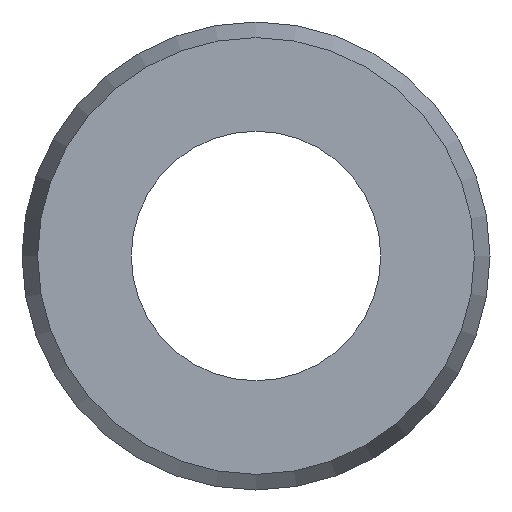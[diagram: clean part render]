
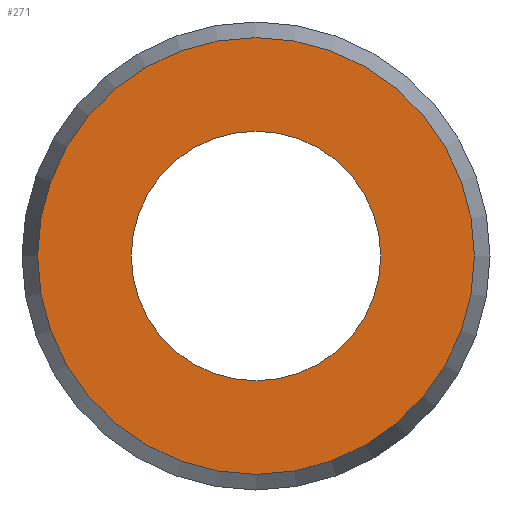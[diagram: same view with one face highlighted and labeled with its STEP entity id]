
A CAD part, front view. The second image highlights one B-rep face of the part: STEP entity #271.
In plain terms, the highlighted planar face has unit normal (0, -1, 0).
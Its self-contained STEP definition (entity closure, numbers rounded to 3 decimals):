
#60=FACE_BOUND('',#101,.T.);
#77=FACE_OUTER_BOUND('',#100,.T.);
#100=EDGE_LOOP('',(#233));
#101=EDGE_LOOP('',(#234));
#123=CIRCLE('',#328,7.);
#124=CIRCLE('',#330,4.);
#143=VERTEX_POINT('',#489);
#144=VERTEX_POINT('',#493);
#173=EDGE_CURVE('',#143,#143,#123,.T.);
#175=EDGE_CURVE('',#144,#144,#124,.T.);
#233=ORIENTED_EDGE('',*,*,#173,.T.);
#234=ORIENTED_EDGE('',*,*,#175,.F.);
#254=PLANE('',#329);
#271=ADVANCED_FACE('',(#77,#60),#254,.T.);
#328=AXIS2_PLACEMENT_3D('',#490,#408,#409);
#329=AXIS2_PLACEMENT_3D('',#492,#411,#412);
#330=AXIS2_PLACEMENT_3D('',#494,#413,#414);
#408=DIRECTION('center_axis',(0.,-1.,0.));
#409=DIRECTION('ref_axis',(1.,0.,0.));
#411=DIRECTION('center_axis',(0.,-1.,0.));
#412=DIRECTION('ref_axis',(0.,0.,-1.));
#413=DIRECTION('center_axis',(0.,-1.,0.));
#414=DIRECTION('ref_axis',(1.,0.,0.));
#489=CARTESIAN_POINT('',(-7.,0.,0.));
#490=CARTESIAN_POINT('Origin',(0.,0.,0.));
#492=CARTESIAN_POINT('Origin',(4.,0.,0.));
#493=CARTESIAN_POINT('',(-4.,0.,0.));
#494=CARTESIAN_POINT('Origin',(0.,0.,0.));
